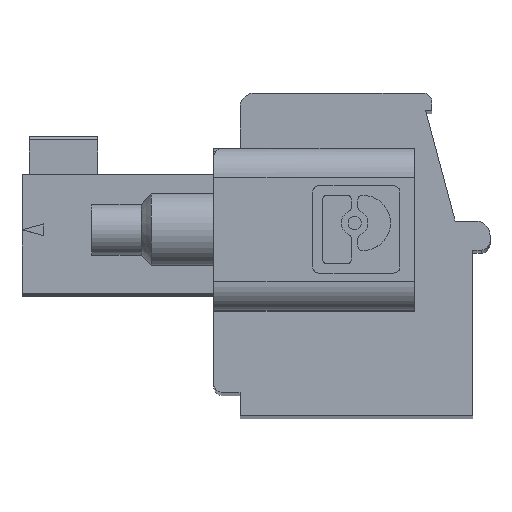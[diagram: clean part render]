
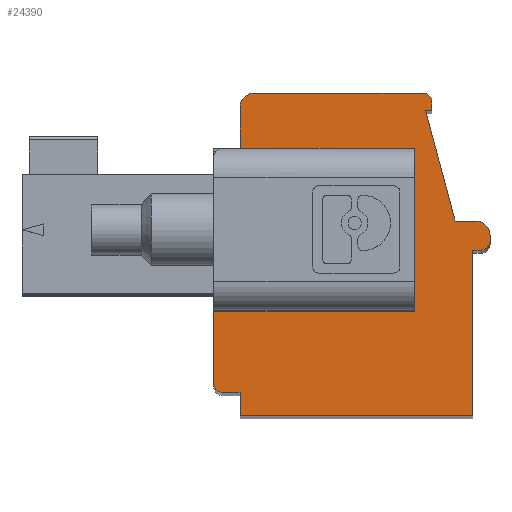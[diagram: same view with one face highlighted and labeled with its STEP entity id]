
A CAD part, top view. The second image highlights one B-rep face of the part: STEP entity #24390.
In plain terms, the highlighted planar face has unit normal (0, 0, 1).
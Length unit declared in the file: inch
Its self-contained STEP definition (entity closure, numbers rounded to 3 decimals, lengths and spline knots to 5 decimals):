
#535=DIRECTION('',(-1.,0.,0.));
#536=VECTOR('',#535,0.01181);
#537=CARTESIAN_POINT('',(2.00437,1.38119,3.06515));
#538=LINE('',#537,#536);
#4922=DIRECTION('',(0.,1.,0.));
#4923=VECTOR('',#4922,0.22441);
#4924=CARTESIAN_POINT('',(1.99256,1.15678,3.06515));
#4925=LINE('',#4924,#4923);
#4926=DIRECTION('',(1.,0.,0.));
#4927=VECTOR('',#4926,0.31496);
#4928=CARTESIAN_POINT('',(1.6776,1.15678,3.06515));
#4929=LINE('',#4928,#4927);
#4930=DIRECTION('',(0.,-1.,0.));
#4931=VECTOR('',#4930,0.0315);
#4932=CARTESIAN_POINT('',(1.6776,1.18828,3.06515));
#4933=LINE('',#4932,#4931);
#4934=DIRECTION('',(1.,0.,0.));
#4935=VECTOR('',#4934,0.02362);
#4936=CARTESIAN_POINT('',(1.65398,1.18828,3.06515));
#4937=LINE('',#4936,#4935);
#4938=CARTESIAN_POINT('',(1.65398,1.20009,3.06515));
#4939=DIRECTION('',(0.,0.,1.));
#4940=DIRECTION('',(-1.,0.,0.));
#4941=AXIS2_PLACEMENT_3D('',#4938,#4939,#4940);
#4943=DIRECTION('',(-1.,0.,0.));
#4944=VECTOR('',#4943,0.27165);
#4945=CARTESIAN_POINT('',(1.91382,1.29851,3.06515));
#4946=LINE('',#4945,#4944);
#4947=DIRECTION('',(0.,-1.,0.));
#4948=VECTOR('',#4947,0.22047);
#4949=CARTESIAN_POINT('',(1.91382,1.51898,3.06515));
#4950=LINE('',#4949,#4948);
#4951=CARTESIAN_POINT('',(1.69729,1.5741,3.06515));
#4952=DIRECTION('',(0.,0.,1.));
#4953=DIRECTION('',(0.,1.,0.));
#4954=AXIS2_PLACEMENT_3D('',#4951,#4952,#4953);
#4956=CARTESIAN_POINT('',(1.92563,1.58198,3.06515));
#4957=DIRECTION('',(0.,0.,1.));
#4958=DIRECTION('',(1.,0.,0.));
#4959=AXIS2_PLACEMENT_3D('',#4956,#4957,#4958);
#4961=DIRECTION('',(0.,1.,0.));
#4962=VECTOR('',#4961,0.01181);
#4963=CARTESIAN_POINT('',(1.93744,1.57017,3.06515));
#4964=LINE('',#4963,#4962);
#4965=DIRECTION('',(1.,0.,0.));
#4966=VECTOR('',#4965,0.00859);
#4967=CARTESIAN_POINT('',(1.92885,1.57017,3.06515));
#4968=LINE('',#4967,#4966);
#4969=DIRECTION('',(-0.259,0.966,0.));
#4970=VECTOR('',#4969,0.15488);
#4971=CARTESIAN_POINT('',(1.96894,1.42056,3.06515));
#4972=LINE('',#4971,#4970);
#4973=DIRECTION('',(-1.,0.,0.));
#4974=VECTOR('',#4973,0.02756);
#4975=CARTESIAN_POINT('',(1.9965,1.42056,3.06515));
#4976=LINE('',#4975,#4974);
#4977=CARTESIAN_POINT('',(1.9965,1.40087,3.06515));
#4978=DIRECTION('',(0.,0.,1.));
#4979=DIRECTION('',(1.,0.,0.));
#4980=AXIS2_PLACEMENT_3D('',#4977,#4978,#4979);
#4982=CARTESIAN_POINT('',(2.00437,1.393,3.06515));
#4983=DIRECTION('',(0.,0.,1.));
#4984=DIRECTION('',(0.,-1.,0.));
#4985=AXIS2_PLACEMENT_3D('',#4982,#4983,#4984);
#5031=DIRECTION('',(0.,1.,0.));
#5032=VECTOR('',#5031,0.09843);
#5033=CARTESIAN_POINT('',(1.64217,1.20009,3.06515));
#5034=LINE('',#5033,#5032);
#6428=DIRECTION('',(-1.,0.,0.));
#6429=VECTOR('',#6428,0.23622);
#6430=CARTESIAN_POINT('',(1.91382,1.51898,3.06515));
#6431=LINE('',#6430,#6429);
#7249=DIRECTION('',(1.,0.,0.));
#7250=VECTOR('',#7249,0.22835);
#7251=CARTESIAN_POINT('',(1.69729,1.59379,3.06515));
#7252=LINE('',#7251,#7250);
#8230=DIRECTION('',(0.,1.,0.));
#8231=VECTOR('',#8230,0.05512);
#8232=CARTESIAN_POINT('',(1.6776,1.51898,3.06515));
#8233=LINE('',#8232,#8231);
#8853=DIRECTION('',(0.,-1.,0.));
#8854=VECTOR('',#8853,0.00787);
#8855=CARTESIAN_POINT('',(2.01618,1.40087,3.06515));
#8856=LINE('',#8855,#8854);
#15069=CARTESIAN_POINT('',(1.64217,1.20009,3.06515));
#15070=CARTESIAN_POINT('',(1.65398,1.18828,3.06515));
#15071=VERTEX_POINT('',#15069);
#15072=VERTEX_POINT('',#15070);
#15077=CARTESIAN_POINT('',(2.00437,1.38119,3.06515));
#15078=CARTESIAN_POINT('',(2.01618,1.393,3.06515));
#15079=VERTEX_POINT('',#15077);
#15080=VERTEX_POINT('',#15078);
#15226=CARTESIAN_POINT('',(1.99256,1.15678,3.06515));
#15227=CARTESIAN_POINT('',(1.99256,1.38119,3.06515));
#15228=VERTEX_POINT('',#15226);
#15229=VERTEX_POINT('',#15227);
#15230=CARTESIAN_POINT('',(1.6776,1.15678,3.06515));
#15231=VERTEX_POINT('',#15230);
#15232=CARTESIAN_POINT('',(1.6776,1.18828,3.06515));
#15233=VERTEX_POINT('',#15232);
#15234=CARTESIAN_POINT('',(1.64217,1.29851,3.06515));
#15235=VERTEX_POINT('',#15234);
#15236=CARTESIAN_POINT('',(1.91382,1.29851,3.06515));
#15237=VERTEX_POINT('',#15236);
#15238=CARTESIAN_POINT('',(1.91382,1.51898,3.06515));
#15239=VERTEX_POINT('',#15238);
#15240=CARTESIAN_POINT('',(1.6776,1.51898,3.06515));
#15241=VERTEX_POINT('',#15240);
#15242=CARTESIAN_POINT('',(1.6776,1.5741,3.06515));
#15243=VERTEX_POINT('',#15242);
#15244=CARTESIAN_POINT('',(1.69729,1.59379,3.06515));
#15245=VERTEX_POINT('',#15244);
#15246=CARTESIAN_POINT('',(1.92563,1.59379,3.06515));
#15247=VERTEX_POINT('',#15246);
#15248=CARTESIAN_POINT('',(1.93744,1.58198,3.06515));
#15249=VERTEX_POINT('',#15248);
#15250=CARTESIAN_POINT('',(1.93744,1.57017,3.06515));
#15251=VERTEX_POINT('',#15250);
#15252=CARTESIAN_POINT('',(1.92885,1.57017,3.06515));
#15253=VERTEX_POINT('',#15252);
#15254=CARTESIAN_POINT('',(1.96894,1.42056,3.06515));
#15255=VERTEX_POINT('',#15254);
#15256=CARTESIAN_POINT('',(1.9965,1.42056,3.06515));
#15257=VERTEX_POINT('',#15256);
#15258=CARTESIAN_POINT('',(2.01618,1.40087,3.06515));
#15259=VERTEX_POINT('',#15258);
#24343=CARTESIAN_POINT('',(1.88804,-0.51098,
3.06515));
#24344=DIRECTION('',(0.,0.,1.));
#24345=DIRECTION('',(1.,0.,0.));
#24346=AXIS2_PLACEMENT_3D('',#24343,#24344,#24345);
#24347=PLANE('',#24346);
#24348=ORIENTED_EDGE('',*,*,#19261,.T.);
#24349=ORIENTED_EDGE('',*,*,#18925,.F.);
#24351=ORIENTED_EDGE('',*,*,#24350,.F.);
#24353=ORIENTED_EDGE('',*,*,#24352,.F.);
#24355=ORIENTED_EDGE('',*,*,#24354,.F.);
#24357=ORIENTED_EDGE('',*,*,#24356,.F.);
#24359=ORIENTED_EDGE('',*,*,#24358,.T.);
#24361=ORIENTED_EDGE('',*,*,#24360,.F.);
#24363=ORIENTED_EDGE('',*,*,#24362,.F.);
#24365=ORIENTED_EDGE('',*,*,#24364,.T.);
#24367=ORIENTED_EDGE('',*,*,#24366,.T.);
#24369=ORIENTED_EDGE('',*,*,#24368,.F.);
#24371=ORIENTED_EDGE('',*,*,#24370,.T.);
#24373=ORIENTED_EDGE('',*,*,#24372,.F.);
#24375=ORIENTED_EDGE('',*,*,#24374,.F.);
#24377=ORIENTED_EDGE('',*,*,#24376,.F.);
#24379=ORIENTED_EDGE('',*,*,#24378,.F.);
#24381=ORIENTED_EDGE('',*,*,#24380,.F.);
#24383=ORIENTED_EDGE('',*,*,#24382,.F.);
#24385=ORIENTED_EDGE('',*,*,#24384,.T.);
#24387=ORIENTED_EDGE('',*,*,#24386,.F.);
#24388=EDGE_LOOP('',(#24348,#24349,#24351,#24353,#24355,#24357,#24359,#24361,
#24363,#24365,#24367,#24369,#24371,#24373,#24375,#24377,#24379,#24381,#24383,
#24385,#24387));
#24389=FACE_OUTER_BOUND('',#24388,.F.);
#24390=ADVANCED_FACE('',(#24389),#24347,.T.);
#4942=CIRCLE('',#4941,0.01181);
#4955=CIRCLE('',#4954,0.01969);
#4960=CIRCLE('',#4959,0.01181);
#4981=CIRCLE('',#4980,0.01969);
#4986=CIRCLE('',#4985,0.01181);
#18925=EDGE_CURVE('',#15228,#15229,#4925,.T.);
#19261=EDGE_CURVE('',#15079,#15229,#538,.T.);
#24350=EDGE_CURVE('',#15231,#15228,#4929,.T.);
#24352=EDGE_CURVE('',#15233,#15231,#4933,.T.);
#24354=EDGE_CURVE('',#15072,#15233,#4937,.T.);
#24356=EDGE_CURVE('',#15071,#15072,#4942,.T.);
#24358=EDGE_CURVE('',#15071,#15235,#5034,.T.);
#24360=EDGE_CURVE('',#15237,#15235,#4946,.T.);
#24362=EDGE_CURVE('',#15239,#15237,#4950,.T.);
#24364=EDGE_CURVE('',#15239,#15241,#6431,.T.);
#24366=EDGE_CURVE('',#15241,#15243,#8233,.T.);
#24368=EDGE_CURVE('',#15245,#15243,#4955,.T.);
#24370=EDGE_CURVE('',#15245,#15247,#7252,.T.);
#24372=EDGE_CURVE('',#15249,#15247,#4960,.T.);
#24374=EDGE_CURVE('',#15251,#15249,#4964,.T.);
#24376=EDGE_CURVE('',#15253,#15251,#4968,.T.);
#24378=EDGE_CURVE('',#15255,#15253,#4972,.T.);
#24380=EDGE_CURVE('',#15257,#15255,#4976,.T.);
#24382=EDGE_CURVE('',#15259,#15257,#4981,.T.);
#24384=EDGE_CURVE('',#15259,#15080,#8856,.T.);
#24386=EDGE_CURVE('',#15079,#15080,#4986,.T.);
